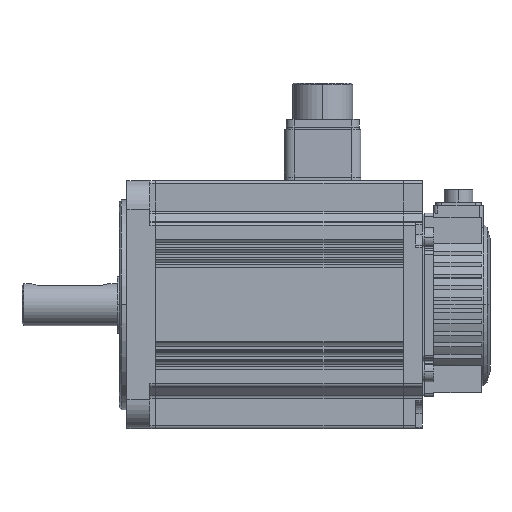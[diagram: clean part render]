
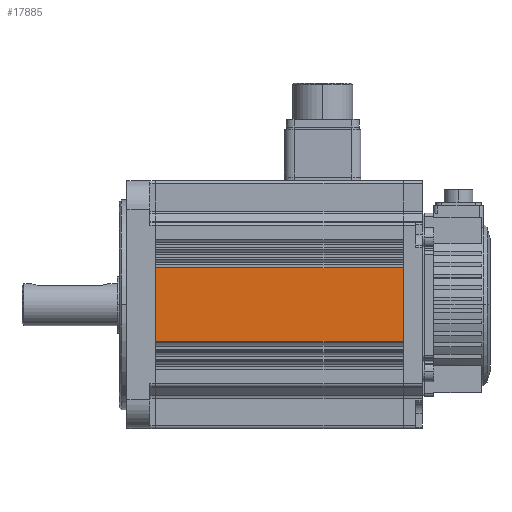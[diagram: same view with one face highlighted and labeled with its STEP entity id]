
A CAD part, top view. The second image highlights one B-rep face of the part: STEP entity #17885.
In plain terms, the highlighted planar face has unit normal (0, 0, 1).
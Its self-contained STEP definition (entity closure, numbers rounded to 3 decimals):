
#572 = EDGE_CURVE ( 'NONE', #38847, #17876, #32216, .T. ) ;
#1742 = LINE ( 'NONE', #27605, #48241 ) ;
#2290 = CARTESIAN_POINT ( 'NONE',  ( 34.254, -14.28, 65. ) ) ;
#2454 = ORIENTED_EDGE ( 'NONE', *, *, #49105, .F. ) ;
#2995 = CARTESIAN_POINT ( 'NONE',  ( 99.254, 24.333, 65. ) ) ;
#3478 = VERTEX_POINT ( 'NONE', #30290 ) ;
#4974 = PLANE ( 'NONE',  #11494 ) ;
#8546 = VERTEX_POINT ( 'NONE', #45334 ) ;
#8563 = VECTOR ( 'NONE', #10339, 1000. ) ;
#9872 = ORIENTED_EDGE ( 'NONE', *, *, #26304, .F. ) ;
#10339 = DIRECTION ( 'NONE',  ( -1., 0., 0. ) ) ;
#11494 = AXIS2_PLACEMENT_3D ( 'NONE', #2995, #51714, #41984 ) ;
#14193 = CARTESIAN_POINT ( 'NONE',  ( -30.746, 70.026, 65. ) ) ;
#16150 = FACE_OUTER_BOUND ( 'NONE', #33856, .T. ) ;
#16570 = VECTOR ( 'NONE', #44708, 1000. ) ;
#17876 = VERTEX_POINT ( 'NONE', #48222 ) ;
#17885 = ADVANCED_FACE ( 'NONE', ( #16150 ), #4974, .F. ) ;
#23917 = DIRECTION ( 'NONE',  ( 1., 0., 0. ) ) ;
#26239 = CARTESIAN_POINT ( 'NONE',  ( 99.254, -14.28, 65. ) ) ;
#26304 = EDGE_CURVE ( 'NONE', #3478, #8546, #1742, .T. ) ;
#27605 = CARTESIAN_POINT ( 'NONE',  ( 34.254, 24.333, 65. ) ) ;
#27737 = LINE ( 'NONE', #44147, #16570 ) ;
#30290 = CARTESIAN_POINT ( 'NONE',  ( -30.746, 24.333, 65. ) ) ;
#32216 = LINE ( 'NONE', #2290, #8563 ) ;
#33167 = LINE ( 'NONE', #14193, #51457 ) ;
#33856 = EDGE_LOOP ( 'NONE', ( #54304, #36883, #9872, #2454 ) ) ;
#36883 = ORIENTED_EDGE ( 'NONE', *, *, #51656, .T. ) ;
#38847 = VERTEX_POINT ( 'NONE', #26239 ) ;
#41984 = DIRECTION ( 'NONE',  ( 0., -1., 0. ) ) ;
#44147 = CARTESIAN_POINT ( 'NONE',  ( 99.254, 24.333, 65. ) ) ;
#44708 = DIRECTION ( 'NONE',  ( 0., 1., 0. ) ) ;
#45334 = CARTESIAN_POINT ( 'NONE',  ( 99.254, 24.333, 65. ) ) ;
#48222 = CARTESIAN_POINT ( 'NONE',  ( -30.746, -14.28, 65. ) ) ;
#48241 = VECTOR ( 'NONE', #23917, 1000. ) ;
#49105 = EDGE_CURVE ( 'NONE', #17876, #3478, #33167, .T. ) ;
#51457 = VECTOR ( 'NONE', #52438, 1000. ) ;
#51656 = EDGE_CURVE ( 'NONE', #38847, #8546, #27737, .T. ) ;
#51714 = DIRECTION ( 'NONE',  ( 0., 0., -1. ) ) ;
#52438 = DIRECTION ( 'NONE',  ( 0., 1., 0. ) ) ;
#54304 = ORIENTED_EDGE ( 'NONE', *, *, #572, .F. ) ;
